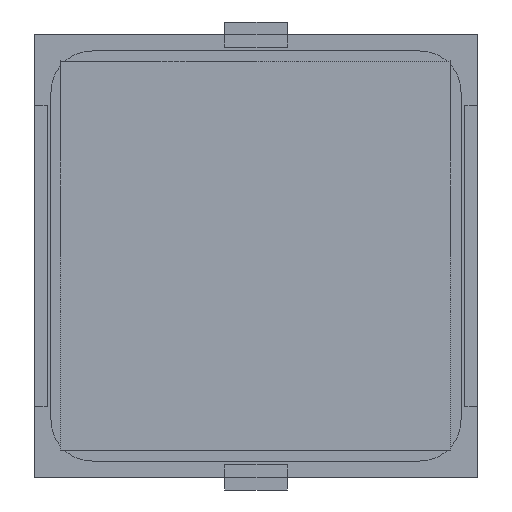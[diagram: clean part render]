
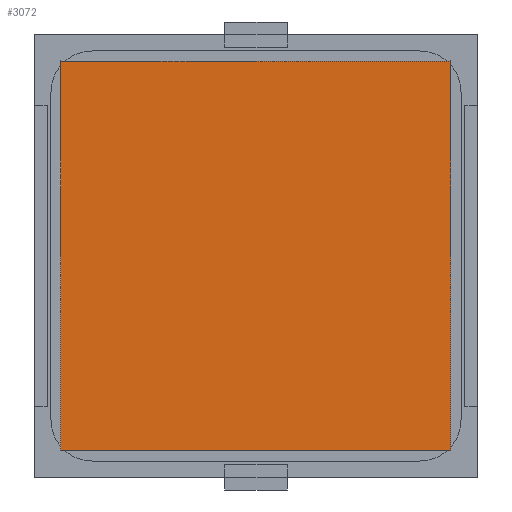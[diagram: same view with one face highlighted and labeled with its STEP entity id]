
A CAD part, front view. The second image highlights one B-rep face of the part: STEP entity #3072.
In plain terms, the highlighted planar face has unit normal (0, -1, 0).
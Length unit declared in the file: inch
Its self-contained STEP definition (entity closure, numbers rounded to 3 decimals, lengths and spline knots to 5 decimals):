
#164 = VECTOR ( 'NONE', #8616, 39.37008 ) ;
#172 = DIRECTION ( 'NONE',  ( 0., 0., 1. ) ) ;
#219 = ORIENTED_EDGE ( 'NONE', *, *, #8547, .F. ) ;
#304 = LINE ( 'NONE', #1553, #1276 ) ;
#392 = CARTESIAN_POINT ( 'NONE',  ( 0.61024, -0.005, -0.61024 ) ) ;
#847 = VECTOR ( 'NONE', #7846, 39.37008 ) ;
#1026 = ORIENTED_EDGE ( 'NONE', *, *, #4311, .F. ) ;
#1276 = VECTOR ( 'NONE', #6963, 39.37008 ) ;
#1341 = CARTESIAN_POINT ( 'NONE',  ( -0.61024, -0.005, 0.61024 ) ) ;
#1553 = CARTESIAN_POINT ( 'NONE',  ( -0.61024, -0.005, 0.61024 ) ) ;
#1702 = CARTESIAN_POINT ( 'NONE',  ( 0.61024, -0.005, -0.61024 ) ) ;
#1737 = EDGE_CURVE ( 'NONE', #2428, #5657, #3834, .T. ) ;
#1821 = AXIS2_PLACEMENT_3D ( 'NONE', #7809, #3096, #3745 ) ;
#2181 = ORIENTED_EDGE ( 'NONE', *, *, #3638, .F. ) ;
#2428 = VERTEX_POINT ( 'NONE', #7181 ) ;
#2978 = ORIENTED_EDGE ( 'NONE', *, *, #1737, .F. ) ;
#3072 = ADVANCED_FACE ( 'NONE', ( #5419 ), #8103, .F. ) ;
#3096 = DIRECTION ( 'NONE',  ( 0., 1., 0. ) ) ;
#3638 = EDGE_CURVE ( 'NONE', #7465, #6220, #6884, .T. ) ;
#3745 = DIRECTION ( 'NONE',  ( 0., 0., 1. ) ) ;
#3834 = LINE ( 'NONE', #392, #847 ) ;
#4217 = CARTESIAN_POINT ( 'NONE',  ( -0.61024, -0.005, -0.61024 ) ) ;
#4311 = EDGE_CURVE ( 'NONE', #6220, #2428, #304, .T. ) ;
#4342 = EDGE_LOOP ( 'NONE', ( #2181, #219, #2978, #1026 ) ) ;
#4513 = LINE ( 'NONE', #5942, #164 ) ;
#5419 = FACE_OUTER_BOUND ( 'NONE', #4342, .T. ) ;
#5518 = CARTESIAN_POINT ( 'NONE',  ( -0.61024, -0.005, -0.61024 ) ) ;
#5657 = VERTEX_POINT ( 'NONE', #1702 ) ;
#5942 = CARTESIAN_POINT ( 'NONE',  ( -0.61024, -0.005, -0.61024 ) ) ;
#6220 = VERTEX_POINT ( 'NONE', #1341 ) ;
#6884 = LINE ( 'NONE', #5518, #7080 ) ;
#6963 = DIRECTION ( 'NONE',  ( 1., 0., 0. ) ) ;
#7080 = VECTOR ( 'NONE', #172, 39.37008 ) ;
#7181 = CARTESIAN_POINT ( 'NONE',  ( 0.61024, -0.005, 0.61024 ) ) ;
#7465 = VERTEX_POINT ( 'NONE', #4217 ) ;
#7809 = CARTESIAN_POINT ( 'NONE',  ( -0.61024, -0.005, 0.61024 ) ) ;
#7846 = DIRECTION ( 'NONE',  ( 0., 0., -1. ) ) ;
#8103 = PLANE ( 'NONE',  #1821 ) ;
#8547 = EDGE_CURVE ( 'NONE', #5657, #7465, #4513, .T. ) ;
#8616 = DIRECTION ( 'NONE',  ( -1., 0., 0. ) ) ;
